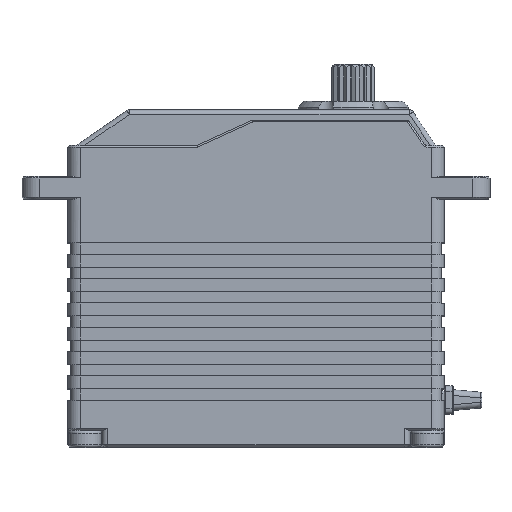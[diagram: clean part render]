
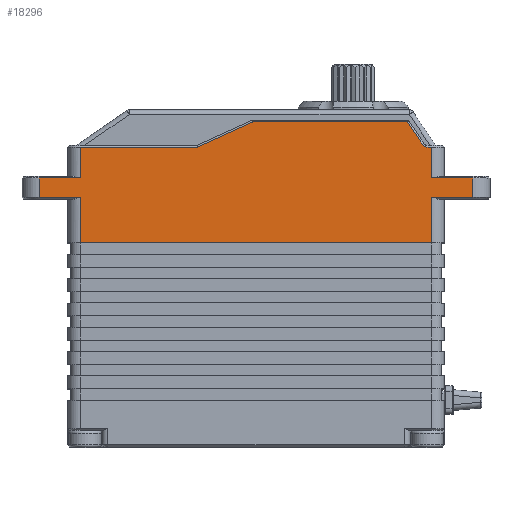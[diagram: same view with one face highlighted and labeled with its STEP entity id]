
A CAD part, top view. The second image highlights one B-rep face of the part: STEP entity #18296.
In plain terms, the highlighted planar face has unit normal (0, 0, 1).
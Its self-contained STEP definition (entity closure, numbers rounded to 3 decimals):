
#392=DIRECTION('',(0.,1.,0.));
#393=VECTOR('',#392,7.95);
#394=CARTESIAN_POINT('',(30.7,-2.25,15.));
#395=LINE('',#394,#393);
#567=DIRECTION('',(1.,0.,0.));
#568=VECTOR('',#567,61.4);
#569=CARTESIAN_POINT('',(-30.7,-2.25,15.));
#570=LINE('',#569,#568);
#574=DIRECTION('',(0.,1.,0.));
#575=VECTOR('',#574,7.95);
#576=CARTESIAN_POINT('',(-30.7,-2.25,15.));
#577=LINE('',#576,#575);
#581=DIRECTION('',(-1.,0.,0.));
#582=VECTOR('',#581,7.2);
#583=CARTESIAN_POINT('',(-30.7,5.7,15.));
#584=LINE('',#583,#582);
#588=DIRECTION('',(0.,-1.,0.));
#589=VECTOR('',#588,3.4);
#590=CARTESIAN_POINT('',(-37.9,9.1,15.));
#591=LINE('',#590,#589);
#595=DIRECTION('',(1.,0.,0.));
#596=VECTOR('',#595,7.2);
#597=CARTESIAN_POINT('',(-37.9,9.1,15.));
#598=LINE('',#597,#596);
#602=DIRECTION('',(-1.,0.,0.));
#603=VECTOR('',#602,20.292);
#604=CARTESIAN_POINT('',(-10.408,14.5,15.));
#605=LINE('',#604,#603);
#609=CARTESIAN_POINT('',(-10.408,15.3,15.));
#610=DIRECTION('',(0.,0.,-1.));
#611=DIRECTION('',(0.414,-0.91,0.));
#612=AXIS2_PLACEMENT_3D('',#609,#610,#611);
#617=DIRECTION('',(-0.91,-0.414,0.));
#618=VECTOR('',#617,10.414);
#619=CARTESIAN_POINT('',(-0.597,18.882,15.));
#620=LINE('',#619,#618);
#624=CARTESIAN_POINT('',(-0.514,18.7,15.));
#625=DIRECTION('',(0.,0.,1.));
#626=DIRECTION('',(0.,1.,0.));
#627=AXIS2_PLACEMENT_3D('',#624,#625,#626);
#632=DIRECTION('',(-1.,0.,0.));
#633=VECTOR('',#632,26.871);
#634=CARTESIAN_POINT('',(26.357,18.9,15.));
#635=LINE('',#634,#633);
#639=CARTESIAN_POINT('',(26.357,18.7,15.));
#640=DIRECTION('',(0.,0.,1.));
#641=DIRECTION('',(0.829,0.559,0.));
#642=AXIS2_PLACEMENT_3D('',#639,#640,#641);
#647=DIRECTION('',(-0.559,0.829,0.));
#648=VECTOR('',#647,4.776);
#649=CARTESIAN_POINT('',(29.193,14.853,15.));
#650=LINE('',#649,#648);
#654=CARTESIAN_POINT('',(29.857,15.3,15.));
#655=DIRECTION('',(0.,0.,-1.));
#656=DIRECTION('',(0.,-1.,0.));
#657=AXIS2_PLACEMENT_3D('',#654,#655,#656);
#662=DIRECTION('',(-1.,0.,0.));
#663=VECTOR('',#662,0.843);
#664=CARTESIAN_POINT('',(30.7,14.5,15.));
#665=LINE('',#664,#663);
#669=DIRECTION('',(1.,0.,0.));
#670=VECTOR('',#669,7.2);
#671=CARTESIAN_POINT('',(30.7,9.1,15.));
#672=LINE('',#671,#670);
#676=DIRECTION('',(0.,1.,0.));
#677=VECTOR('',#676,3.4);
#678=CARTESIAN_POINT('',(37.9,5.7,15.));
#679=LINE('',#678,#677);
#683=DIRECTION('',(-1.,0.,0.));
#684=VECTOR('',#683,7.2);
#685=CARTESIAN_POINT('',(37.9,5.7,15.));
#686=LINE('',#685,#684);
#2597=DIRECTION('',(0.,1.,0.));
#2598=VECTOR('',#2597,5.4);
#2599=CARTESIAN_POINT('',(30.7,9.1,15.));
#2600=LINE('',#2599,#2598);
#2689=DIRECTION('',(0.,-1.,0.));
#2690=VECTOR('',#2689,5.4);
#2691=CARTESIAN_POINT('',(-30.7,14.5,15.));
#2692=LINE('',#2691,#2690);
#15801=CARTESIAN_POINT('',(37.9,9.1,15.));
#15802=VERTEX_POINT('',#15801);
#15805=CARTESIAN_POINT('',(30.7,9.1,15.));
#15806=VERTEX_POINT('',#15805);
#15807=CARTESIAN_POINT('',(37.9,5.7,15.));
#15808=CARTESIAN_POINT('',(30.7,5.7,15.));
#15809=VERTEX_POINT('',#15807);
#15810=VERTEX_POINT('',#15808);
#15895=CARTESIAN_POINT('',(-37.9,9.1,
15.));
#15896=CARTESIAN_POINT('',(-30.7,9.1,15.));
#15897=VERTEX_POINT('',#15895);
#15898=VERTEX_POINT('',#15896);
#16065=CARTESIAN_POINT('',(-37.9,5.7,15.));
#16066=VERTEX_POINT('',#16065);
#16069=CARTESIAN_POINT('',(-30.7,5.7,15.));
#16070=VERTEX_POINT('',#16069);
#16071=CARTESIAN_POINT('',(-30.7,14.5,15.));
#16073=VERTEX_POINT('',#16071);
#16131=CARTESIAN_POINT('',(30.7,14.5,15.));
#16132=VERTEX_POINT('',#16131);
#16135=CARTESIAN_POINT('',(29.857,14.5,15.));
#16136=VERTEX_POINT('',#16135);
#16139=CARTESIAN_POINT('',(29.193,14.853,15.));
#16140=VERTEX_POINT('',#16139);
#16143=CARTESIAN_POINT('',(26.523,18.812,15.));
#16144=VERTEX_POINT('',#16143);
#16147=CARTESIAN_POINT('',(26.357,18.9,15.));
#16148=VERTEX_POINT('',#16147);
#16151=CARTESIAN_POINT('',(-0.514,18.9,
15.));
#16152=VERTEX_POINT('',#16151);
#16155=CARTESIAN_POINT('',(-0.597,18.882,15.));
#16156=VERTEX_POINT('',#16155);
#16159=CARTESIAN_POINT('',(-10.077,14.572,15.));
#16160=VERTEX_POINT('',#16159);
#16163=CARTESIAN_POINT('',(-10.408,14.5,15.));
#16164=VERTEX_POINT('',#16163);
#16584=CARTESIAN_POINT('',(-30.7,-2.25,15.));
#16585=CARTESIAN_POINT('',(30.7,-2.25,15.));
#16586=VERTEX_POINT('',#16584);
#16587=VERTEX_POINT('',#16585);
#18251=CARTESIAN_POINT('',(-32.9,0.,15.));
#18252=DIRECTION('',(0.,0.,1.));
#18253=DIRECTION('',(1.,0.,0.));
#18254=AXIS2_PLACEMENT_3D('',#18251,#18252,#18253);
#18255=PLANE('',#18254);
#18256=ORIENTED_EDGE('',*,*,#18099,.F.);
#18258=ORIENTED_EDGE('',*,*,#18257,.T.);
#18260=ORIENTED_EDGE('',*,*,#18259,.T.);
#18262=ORIENTED_EDGE('',*,*,#18261,.F.);
#18264=ORIENTED_EDGE('',*,*,#18263,.T.);
#18266=ORIENTED_EDGE('',*,*,#18265,.F.);
#18268=ORIENTED_EDGE('',*,*,#18267,.F.);
#18270=ORIENTED_EDGE('',*,*,#18269,.F.);
#18272=ORIENTED_EDGE('',*,*,#18271,.F.);
#18274=ORIENTED_EDGE('',*,*,#18273,.F.);
#18276=ORIENTED_EDGE('',*,*,#18275,.F.);
#18278=ORIENTED_EDGE('',*,*,#18277,.F.);
#18280=ORIENTED_EDGE('',*,*,#18279,.F.);
#18282=ORIENTED_EDGE('',*,*,#18281,.F.);
#18284=ORIENTED_EDGE('',*,*,#18283,.F.);
#18286=ORIENTED_EDGE('',*,*,#18285,.F.);
#18288=ORIENTED_EDGE('',*,*,#18287,.T.);
#18290=ORIENTED_EDGE('',*,*,#18289,.F.);
#18292=ORIENTED_EDGE('',*,*,#18291,.T.);
#18293=ORIENTED_EDGE('',*,*,#18128,.F.);
#18294=EDGE_LOOP('',(#18256,#18258,#18260,#18262,#18264,#18266,#18268,#18270,
#18272,#18274,#18276,#18278,#18280,#18282,#18284,#18286,#18288,#18290,#18292,
#18293));
#18295=FACE_OUTER_BOUND('',#18294,.F.);
#613=CIRCLE('',#612,0.8);
#628=CIRCLE('',#627,0.2);
#643=CIRCLE('',#642,0.2);
#658=CIRCLE('',#657,0.8);
#18099=EDGE_CURVE('',#16586,#16587,#570,.T.);
#18128=EDGE_CURVE('',#16587,#15810,#395,.T.);
#18257=EDGE_CURVE('',#16586,#16070,#577,.T.);
#18259=EDGE_CURVE('',#16070,#16066,#584,.T.);
#18261=EDGE_CURVE('',#15897,#16066,#591,.T.);
#18263=EDGE_CURVE('',#15897,#15898,#598,.T.);
#18265=EDGE_CURVE('',#16073,#15898,#2692,.T.);
#18267=EDGE_CURVE('',#16164,#16073,#605,.T.);
#18269=EDGE_CURVE('',#16160,#16164,#613,.T.);
#18271=EDGE_CURVE('',#16156,#16160,#620,.T.);
#18273=EDGE_CURVE('',#16152,#16156,#628,.T.);
#18275=EDGE_CURVE('',#16148,#16152,#635,.T.);
#18277=EDGE_CURVE('',#16144,#16148,#643,.T.);
#18279=EDGE_CURVE('',#16140,#16144,#650,.T.);
#18281=EDGE_CURVE('',#16136,#16140,#658,.T.);
#18283=EDGE_CURVE('',#16132,#16136,#665,.T.);
#18285=EDGE_CURVE('',#15806,#16132,#2600,.T.);
#18287=EDGE_CURVE('',#15806,#15802,#672,.T.);
#18289=EDGE_CURVE('',#15809,#15802,#679,.T.);
#18291=EDGE_CURVE('',#15809,#15810,#686,.T.);
#18296=ADVANCED_FACE('',(#18295),#18255,.T.);
